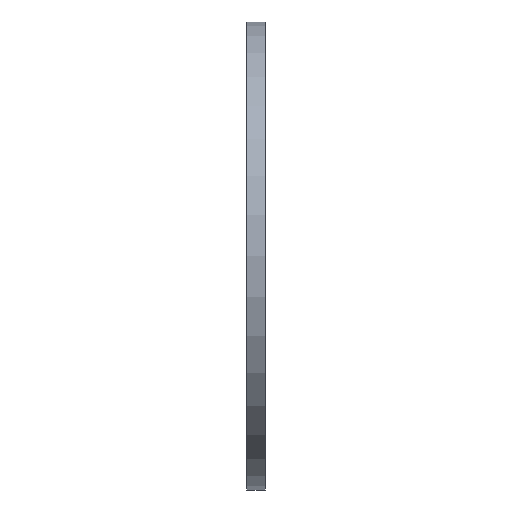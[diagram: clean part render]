
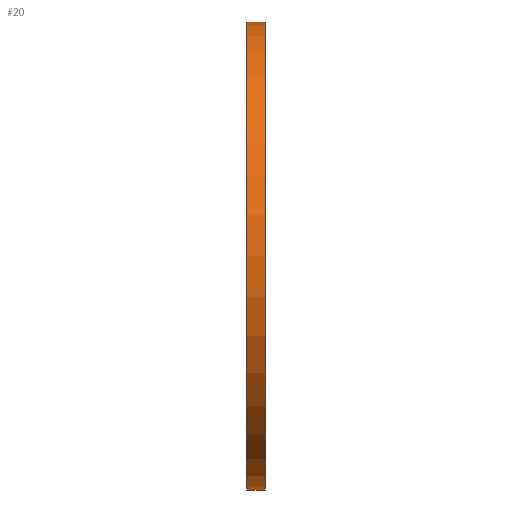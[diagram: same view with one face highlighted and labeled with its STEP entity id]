
A CAD part, left-side view. The second image highlights one B-rep face of the part: STEP entity #20.
In plain terms, the highlighted cylindrical face has radius 255 mm (diameter 510 mm), a partial arc.
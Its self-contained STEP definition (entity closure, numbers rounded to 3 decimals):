
#17 = AXIS2_PLACEMENT_3D ( 'NONE', #79, #1462, #575 ) ;
#20 = ADVANCED_FACE ( 'NONE', ( #1162 ), #1071, .T. ) ;
#30 = AXIS2_PLACEMENT_3D ( 'NONE', #920, #245, #255 ) ;
#48 = DIRECTION ( 'NONE',  ( 0., 0., -1. ) ) ;
#79 = CARTESIAN_POINT ( 'NONE',  ( 0., 20., 0. ) ) ;
#116 = CARTESIAN_POINT ( 'NONE',  ( 0., 0., 255. ) ) ;
#166 = DIRECTION ( 'NONE',  ( 0., -1., 0. ) ) ;
#227 = VERTEX_POINT ( 'NONE', #240 ) ;
#234 = EDGE_CURVE ( 'NONE', #1129, #536, #907, .T. ) ;
#240 = CARTESIAN_POINT ( 'NONE',  ( 0., 20., -255. ) ) ;
#245 = DIRECTION ( 'NONE',  ( 0., -1., 0. ) ) ;
#255 = DIRECTION ( 'NONE',  ( 0., 0., -1. ) ) ;
#295 = CARTESIAN_POINT ( 'NONE',  ( 0., 0., -255. ) ) ;
#319 = ORIENTED_EDGE ( 'NONE', *, *, #973, .F. ) ;
#367 = EDGE_LOOP ( 'NONE', ( #1225, #545, #426, #319 ) ) ;
#413 = VERTEX_POINT ( 'NONE', #723 ) ;
#426 = ORIENTED_EDGE ( 'NONE', *, *, #1034, .T. ) ;
#504 = AXIS2_PLACEMENT_3D ( 'NONE', #1183, #166, #48 ) ;
#507 = DIRECTION ( 'NONE',  ( 0., -1., 0. ) ) ;
#536 = VERTEX_POINT ( 'NONE', #116 ) ;
#545 = ORIENTED_EDGE ( 'NONE', *, *, #822, .T. ) ;
#575 = DIRECTION ( 'NONE',  ( 0., 0., -1. ) ) ;
#594 = DIRECTION ( 'NONE',  ( 0., -1., 0. ) ) ;
#623 = VECTOR ( 'NONE', #594, 1000. ) ;
#723 = CARTESIAN_POINT ( 'NONE',  ( 0., 0., -255. ) ) ;
#740 = CIRCLE ( 'NONE', #17, 255. ) ;
#822 = EDGE_CURVE ( 'NONE', #1129, #227, #740, .T. ) ;
#907 = LINE ( 'NONE', #1012, #623 ) ;
#920 = CARTESIAN_POINT ( 'NONE',  ( 0., 0., 0. ) ) ;
#973 = EDGE_CURVE ( 'NONE', #536, #413, #1472, .T. ) ;
#1012 = CARTESIAN_POINT ( 'NONE',  ( 0., 0., 255. ) ) ;
#1034 = EDGE_CURVE ( 'NONE', #227, #413, #1214, .T. ) ;
#1071 = CYLINDRICAL_SURFACE ( 'NONE', #30, 255. ) ;
#1129 = VERTEX_POINT ( 'NONE', #1223 ) ;
#1162 = FACE_OUTER_BOUND ( 'NONE', #367, .T. ) ;
#1183 = CARTESIAN_POINT ( 'NONE',  ( 0., 0., 0. ) ) ;
#1214 = LINE ( 'NONE', #295, #1265 ) ;
#1223 = CARTESIAN_POINT ( 'NONE',  ( 0., 20., 255. ) ) ;
#1225 = ORIENTED_EDGE ( 'NONE', *, *, #234, .F. ) ;
#1265 = VECTOR ( 'NONE', #507, 1000. ) ;
#1462 = DIRECTION ( 'NONE',  ( 0., -1., 0. ) ) ;
#1472 = CIRCLE ( 'NONE', #504, 255. ) ;
